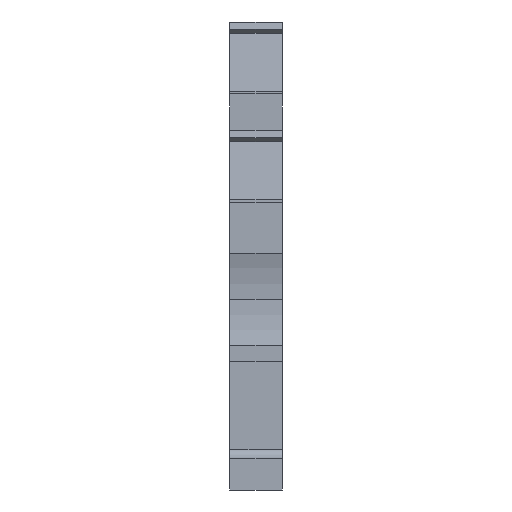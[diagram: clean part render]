
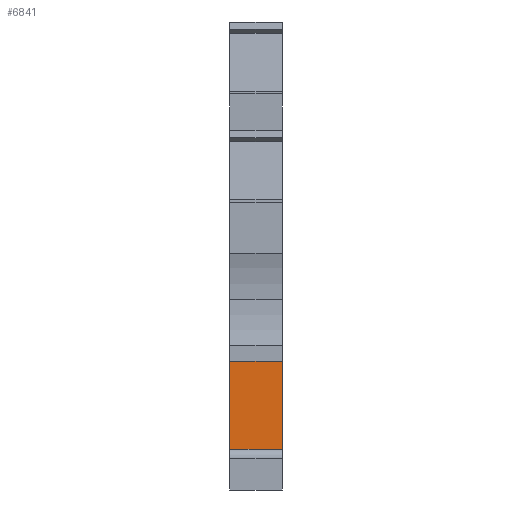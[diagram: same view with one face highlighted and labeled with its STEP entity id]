
A CAD part, front view. The second image highlights one B-rep face of the part: STEP entity #6841.
In plain terms, the highlighted planar face has unit normal (0, -1, 0).
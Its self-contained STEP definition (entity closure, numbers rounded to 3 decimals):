
#1051=CARTESIAN_POINT('',(0.,3.6,4.));
#1052=VERTEX_POINT('',#1051);
#1059=CARTESIAN_POINT('',(0.,3.6,12.6));
#1060=VERTEX_POINT('',#1059);
#1061=CARTESIAN_POINT('',(0.,3.6,4.));
#1062=DIRECTION('',(0.,0.,1.));
#1063=VECTOR('',#1062,8.6);
#1064=LINE('',#1061,#1063);
#1065=EDGE_CURVE('',#1052,#1060,#1064,.T.);
#2677=CARTESIAN_POINT('',(1.,3.6,4.));
#2678=VERTEX_POINT('',#2677);
#2685=CARTESIAN_POINT('',(1.,3.6,4.));
#2686=DIRECTION('',(-1.,0.,0.));
#2687=VECTOR('',#2686,1.);
#2688=LINE('',#2685,#2687);
#2689=EDGE_CURVE('',#2678,#1052,#2688,.T.);
#2700=CARTESIAN_POINT('',(1.,3.6,1.5));
#2701=VERTEX_POINT('',#2700);
#2702=CARTESIAN_POINT('',(1.,3.6,1.5));
#2703=DIRECTION('',(-0.,0.,1.));
#2704=VECTOR('',#2703,2.5);
#2705=LINE('',#2702,#2704);
#2706=EDGE_CURVE('',#2701,#2678,#2705,.T.);
#3359=CARTESIAN_POINT('',(5.15,3.6,12.6));
#3360=VERTEX_POINT('',#3359);
#3367=CARTESIAN_POINT('',(5.15,3.6,1.5));
#3368=VERTEX_POINT('',#3367);
#3369=CARTESIAN_POINT('',(5.15,3.6,1.5));
#3370=DIRECTION('',(0.,0.,1.));
#3371=VECTOR('',#3370,11.1);
#3372=LINE('',#3369,#3371);
#3373=EDGE_CURVE('',#3368,#3360,#3372,.T.);
#6814=CARTESIAN_POINT('',(5.15,3.6,1.5));
#6815=DIRECTION('',(-1.,0.,0.));
#6816=VECTOR('',#6815,4.15);
#6817=LINE('',#6814,#6816);
#6818=EDGE_CURVE('',#3368,#2701,#6817,.T.);
#6823=CARTESIAN_POINT('',(5.15,3.6,2.5));
#6824=DIRECTION('',(0.,1.,-0.));
#6825=DIRECTION('',(0.,-0.,-1.));
#6826=AXIS2_PLACEMENT_3D('',#6823,#6824,#6825);
#6827=PLANE('',#6826);
#6828=CARTESIAN_POINT('',(5.15,3.6,12.6));
#6829=DIRECTION('',(-1.,0.,0.));
#6830=VECTOR('',#6829,5.15);
#6831=LINE('',#6828,#6830);
#6832=EDGE_CURVE('',#3360,#1060,#6831,.T.);
#6833=ORIENTED_EDGE('',*,*,#6832,.T.);
#6834=ORIENTED_EDGE('',*,*,#1065,.F.);
#6835=ORIENTED_EDGE('',*,*,#2689,.F.);
#6836=ORIENTED_EDGE('',*,*,#2706,.F.);
#6837=ORIENTED_EDGE('',*,*,#6818,.F.);
#6838=ORIENTED_EDGE('',*,*,#3373,.T.);
#6839=EDGE_LOOP('',(#6833,#6834,#6835,#6836,#6837,#6838));
#6840=FACE_BOUND('',#6839,.T.);
#6841=ADVANCED_FACE('',(#6840),#6827,.F.);
